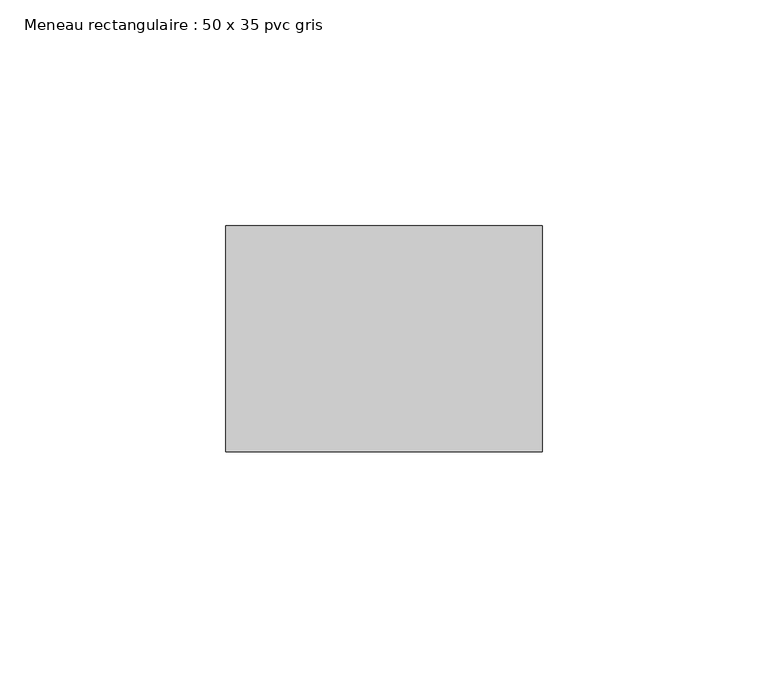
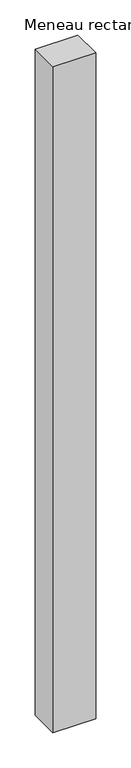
"""IFC4 building model written with IfcOpenShell, lengths in millimetres: member geometry, Meneau rectangulaire : 50 x 35 pvc gris."""

import ifcopenshell
import ifcopenshell.guid

model = None  # the IFC model being written
_history = None  # IfcOwnerHistory: only IFC2X3 demands one
_inside = {}  # id of a spatial element -> (the spatial element, [elements in it])
_under = {}  # id of a project, library or spatial element -> (it, [spatial elements below it])
_declared = {}  # id of a project -> (the project, [libraries it declares])
_typed = {}  # id of a type object -> (the type object, [elements of that type])
_made_of = {}  # id of a material, layer set ... -> (it, [elements and type objects made of it])


def new_model(schema):
    """Start an empty IFC model of exactly this schema.

    Asked for "IFC4X3", IfcOpenShell would pick the latest addendum, in which some entities
    have other attributes; the version numbers below select the first issue.
    IFC2X3 requires an IfcOwnerHistory on every rooted entity: one is made here for all.
    """
    global model, _history
    if schema == "IFC4X3":
        model = ifcopenshell.file(schema_version=(4, 3, 0, 0))
    else:
        model = ifcopenshell.file(schema=schema)
    _inside.clear()
    _under.clear()
    _declared.clear()
    _typed.clear()
    _made_of.clear()
    _history = None
    if model.schema == "IFC2X3":
        org = make("IfcOrganization", Name="unknown")
        user = make(
            "IfcPersonAndOrganization",
            ThePerson=make("IfcPerson", FamilyName="unknown"),
            TheOrganization=org,
        )
        app = make(
            "IfcApplication",
            ApplicationDeveloper=org,
            Version="unknown",
            ApplicationFullName="unknown",
            ApplicationIdentifier="unknown",
        )
        _history = make(
            "IfcOwnerHistory",
            OwningUser=user,
            OwningApplication=app,
            ChangeAction="ADDED",
            CreationDate=0,
        )
    return model


def make(cls, **values):
    """One entity of the class cls with the attributes given. An attribute that is None is left unset."""
    return model.create_entity(
        cls, **{name: value for name, value in values.items() if value is not None}
    )


def rooted(cls, **values):
    """An entity with a GlobalId (a new one), such as an element, a storey or a relation."""
    return make(cls, GlobalId=ifcopenshell.guid.new(), OwnerHistory=_history, **values)


def si_unit(unit_type, name, prefix=None):
    """IfcSIUnit, for example si_unit("LENGTHUNIT", "METRE", prefix="MILLI")."""
    return make("IfcSIUnit", UnitType=unit_type, Prefix=prefix, Name=name)


def assignment(units):
    """IfcUnitAssignment: the units of a project."""
    return None if units is None else make("IfcUnitAssignment", Units=units)


def point(xyz):
    """IfcCartesianPoint."""
    return None if xyz is None else make("IfcCartesianPoint", Coordinates=xyz)


def direction(xyz):
    """IfcDirection."""
    return None if xyz is None else make("IfcDirection", DirectionRatios=xyz)


def frame(location, z_axis=None, x_axis=None):
    """IfcAxis2Placement3D, a coordinate frame: its origin and axes. An axis left out is left unset."""
    return make(
        "IfcAxis2Placement3D",
        Location=point(location),
        Axis=direction(z_axis),
        RefDirection=direction(x_axis),
    )


def origin():
    """The frame at (0, 0, 0) with its axes left unset."""
    return frame((0.0, 0.0, 0.0))


def place(relative_to, where):
    """IfcLocalPlacement: puts the frame where relative to a parent placement (None: the world)."""
    return make(
        "IfcLocalPlacement", PlacementRelTo=relative_to, RelativePlacement=where
    )


def context(
    kind, dimensions, precision=None, world=None, true_north=None, identifier=None
):
    """IfcGeometricRepresentationContext, for example the 3D "Model" context."""
    return make(
        "IfcGeometricRepresentationContext",
        ContextIdentifier=identifier,
        ContextType=kind,
        CoordinateSpaceDimension=dimensions,
        Precision=precision,
        WorldCoordinateSystem=world,
        TrueNorth=true_north,
    )


def project(units=None, contexts=None):
    """IfcProject with its units and contexts."""
    return rooted(
        "IfcProject",
        Name="project",
        RepresentationContexts=contexts,
        UnitsInContext=assignment(units),
    )


def spatial(cls, under=None, at=None, **own):
    """A site, building, storey or space (cls), placed at a placement, below another one or the project."""
    s = rooted(cls, ObjectPlacement=at, **own)
    if under is not None:
        _under.setdefault(under.id(), (under, []))[1].append(s)
    return s


def polyline(points):
    """IfcPolyline through the points."""
    return make("IfcPolyline", Points=[point(p) for p in points])


def outline(outer, holes=None, kind="AREA"):
    """IfcArbitraryClosedProfileDef: a profile drawn as a closed curve; with holes, ...WithVoids."""
    if holes is None:
        return make("IfcArbitraryClosedProfileDef", ProfileType=kind, OuterCurve=outer)
    return make(
        "IfcArbitraryProfileDefWithVoids",
        ProfileType=kind,
        OuterCurve=outer,
        InnerCurves=holes,
    )


def extrude(swept, where, along, depth):
    """IfcExtrudedAreaSolid: the profile swept, set in the frame where, extruded along a direction by depth."""
    return make(
        "IfcExtrudedAreaSolid",
        SweptArea=swept,
        Position=where,
        ExtrudedDirection=direction(along),
        Depth=depth,
    )


def shape(context_of_items, identifier, shape_type, items):
    """IfcShapeRepresentation: the items that make up one representation, for example the "Body"."""
    return make(
        "IfcShapeRepresentation",
        ContextOfItems=context_of_items,
        RepresentationIdentifier=identifier,
        RepresentationType=shape_type,
        Items=items,
    )


def source(mapping_origin, context_of_items, identifier, shape_type, items):
    """IfcRepresentationMap: a shape defined once, which mapped items show again and again."""
    return make(
        "IfcRepresentationMap",
        MappingOrigin=mapping_origin,
        MappedRepresentation=shape(context_of_items, identifier, shape_type, items),
    )


def transform(
    local_origin,
    x_axis=None,
    y_axis=None,
    z_axis=None,
    scale=None,
    scale2=None,
    scale3=None,
    uniform=True,
):
    """IfcCartesianTransformationOperator3D, or its non-uniform kind. x_axis, y_axis, z_axis: its Axis1, 2, 3."""
    if uniform:
        return make(
            "IfcCartesianTransformationOperator3D",
            Axis1=direction(x_axis),
            Axis2=direction(y_axis),
            LocalOrigin=point(local_origin),
            Scale=scale,
            Axis3=direction(z_axis),
        )
    return make(
        "IfcCartesianTransformationOperator3DnonUniform",
        Axis1=direction(x_axis),
        Axis2=direction(y_axis),
        LocalOrigin=point(local_origin),
        Scale=scale,
        Axis3=direction(z_axis),
        Scale2=scale2,
        Scale3=scale3,
    )


def mapped(mapping_source, mapping_target):
    """IfcMappedItem: shows the shape of a source again, moved by a transform."""
    return make(
        "IfcMappedItem", MappingSource=mapping_source, MappingTarget=mapping_target
    )


def made_of(thing, what):
    """Note that an element or type object is made of a material, layer set ...; save() writes the relation."""
    if what is not None:
        _made_of.setdefault(what.id(), (what, []))[1].append(thing)
    return thing


def element(
    cls,
    number,
    at=None,
    inside=None,
    cuts=None,
    type_object=None,
    material=None,
    context=None,
    identifier="Body",
    shape_type=None,
    held_by="IfcProductDefinitionShape",
    body=None,
    shapes=None,
    **own,
):
    """One element of the class cls, such as IfcWall. Its Tag is "e" and its number.

    at: its placement. inside: the storey or other place that contains it. cuts: it is an
    opening in that element (IfcRelVoidsElement). A single representation is given by context,
    identifier, shape_type and body (its items); several are given by shapes. held_by: the class
    of the entity that holds the representations. save() writes the other relations.
    """
    e = rooted(cls, Tag="e%d" % number, ObjectPlacement=at, **own)
    if body is not None:
        shapes = [shape(context, identifier, shape_type, body)]
    if shapes is not None:
        e.Representation = make(held_by, Representations=shapes)
    if inside is not None:
        _inside.setdefault(inside.id(), (inside, []))[1].append(e)
    if cuts is not None:
        rooted(
            "IfcRelVoidsElement", RelatingBuildingElement=cuts, RelatedOpeningElement=e
        )
    if type_object is not None:
        _typed.setdefault(type_object.id(), (type_object, []))[1].append(e)
    return made_of(e, material)


def aggregate(whole, parts):
    """IfcRelAggregates: a whole, such as a stair, and the parts it consists of."""
    return rooted("IfcRelAggregates", RelatingObject=whole, RelatedObjects=parts)


def save(model, path):
    """Write the relations noted so far, then the file.

    IfcRelAggregates (storeys below a building ...), IfcRelContainedInSpatialStructure (elements
    in a storey), IfcRelDefinesByType, IfcRelAssociatesMaterial and IfcRelDeclares: one each for
    every whole, place, type object, material and project.
    """
    for whole, parts in _under.values():
        aggregate(whole, parts)
    for where, things in _inside.values():
        rooted(
            "IfcRelContainedInSpatialStructure",
            RelatedElements=things,
            RelatingStructure=where,
        )
    for kind, things in _typed.values():
        rooted("IfcRelDefinesByType", RelatedObjects=things, RelatingType=kind)
    for what, things in _made_of.values():
        rooted("IfcRelAssociatesMaterial", RelatedObjects=things, RelatingMaterial=what)
    for by, libraries in _declared.values():
        rooted("IfcRelDeclares", RelatingContext=by, RelatedDefinitions=libraries)
    model.write(path)


def meneau_rectangulaire_50_x_35_pvc_gris_02aa37c8(model_context):
    return source(origin(), model_context, "Body", "SweptSolid", [
        extrude(outline(polyline([(0.0, 0.0), (0.0, -50.0), (-70.0, -50.0), (-70.0, 0.0), (0.0, 0.0)])), frame((0.0, 0.0, -1154.1172818), z_axis=(0.0, 0.0, 1.0), x_axis=(1.0, 0.0, 0.0)), (0.0, 0.0, 1.0), 1154.1172818),
    ])


if __name__ == "__main__":
    model = new_model("IFC4")
    model_context = context("Model", 3, world=origin())
    ifc_project = project(units=[si_unit("LENGTHUNIT", "METRE", prefix="MILLI")], contexts=[model_context])
    site = spatial("IfcSite", under=ifc_project)
    building = spatial("IfcBuilding", under=site)
    placement = place(None, origin())
    meneau_rectangulaire_50_x_35_pvc_gris_shape = meneau_rectangulaire_50_x_35_pvc_gris_02aa37c8(model_context)
    element("IfcMember", 1, ObjectType="Meneau rectangulaire : 50 x 35 pvc gris", at=placement, inside=building, context=model_context, shape_type="MappedRepresentation", body=[
        mapped(meneau_rectangulaire_50_x_35_pvc_gris_shape, transform((0.0, 0.0, 0.0), x_axis=(1.0, 0.0, 0.0), y_axis=(0.0, 1.0, 0.0), z_axis=(0.0, 0.0, 1.0))),
    ])
    save(model, "model.ifc")
